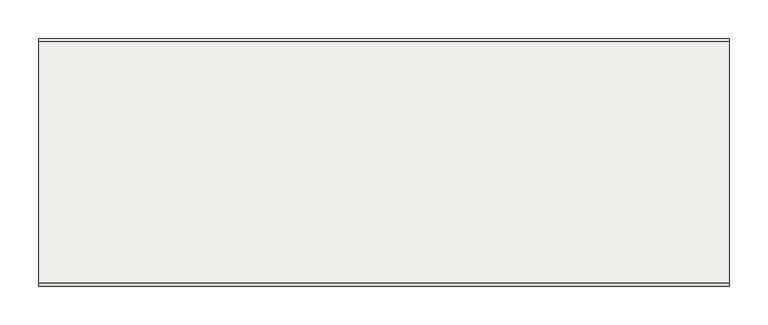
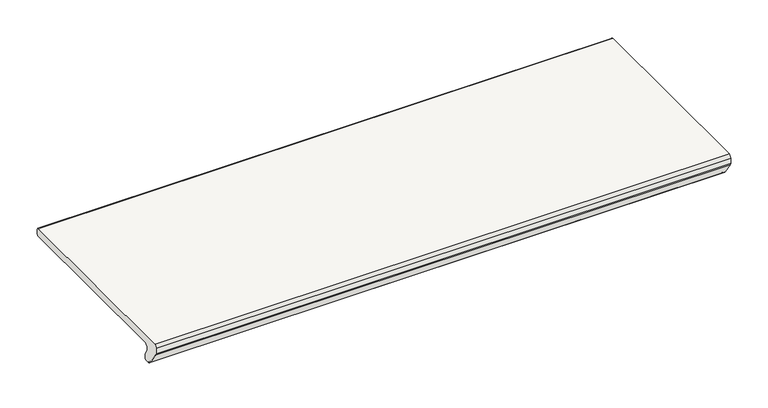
"""IFC4 building model written with IfcOpenShell, lengths in millimetres: slab geometry, ROSA GRES_J62 : Pieza J62_Tresor_Java_Anti-Slip."""

from ifc_helpers import new_model, si_unit, frame, origin, place, context, project, spatial, polyline, circle_curve, source, transform, mapped, element, save
from ifc_brep_helpers import plane_surface, cylinder_surface, revolved_surface, advanced_brep


def slab_3769058e(model_context):
    return source(origin(), model_context, "Body", "AdvancedBrep", [
        advanced_brep(
        [(885.453634, 317.0, 2.5), (885.453634, 317.0, 10.0774941), (885.453634, 314.2818333, 12.7946269), (885.453634, 3.9876034, 12.7946269), (885.453634, 0.0, 8.2984975), (885.453634, 0.0, -0.2793766), (885.453634, 0.7963935, -2.84429), (885.453634, 14.760096, -23.1626329), (885.453634, 17.666394, -25.1262743), (885.453634, 18.5721049, -25.1262743), (885.453634, 19.473321, -26.1221068), (885.453634, 20.3835268, -27.1188383), (885.453634, 26.7240304, -27.1188383), (885.453634, 29.4411632, -24.4017055), (885.453634, 29.4411632, -18.2354274), (885.453634, 24.5931401, -10.7276172), (885.453634, 29.6363327, 0.0), (885.453634, 314.5, 0.0), (0.0, 317.0, 2.5), (0.0, 314.5, 0.0), (0.0, 29.6363327, 0.0), (0.0, 24.5931401, -10.7276172), (0.0, 29.4411632, -18.2354274), (0.0, 29.4411632, -24.4017055), (0.0, 26.7240304, -27.1188383), (0.0, 20.3835268, -27.1188383), (0.0, 19.4823107, -26.1230058), (0.0, 18.5721049, -25.1262743), (0.0, 17.666394, -25.1262743), (0.0, 14.760096, -23.1626329), (0.0, 0.7963935, -2.84429), (0.0, 0.0, -0.2793766), (0.0, 0.0, 8.2984975), (0.0, 3.9876034, 12.7946269), (0.0, 314.2818333, 12.7946269), (0.0, 316.9989661, 10.0774941)],
        [
            (0, 1),
            (1, 2, circle_curve(frame((885.453634, 314.2818333, 10.0774941), z_axis=(1.0, 0.0, 0.0), x_axis=(0.0, 0.0, 1.0)), 2.7171328)),
            (2, 3),
            (3, 4, circle_curve(frame((885.453634, 4.5285547, 8.2984975), z_axis=(1.0, 0.0, 0.0), x_axis=(0.0, -0.9928398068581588, -0.11945341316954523)), 4.5285547)),
            (4, 5),
            (5, 6, circle_curve(frame((885.453634, 4.5285547, -0.2793766), z_axis=(1.0, 0.0, 0.0), x_axis=(0.0, 0.0, -1.0)), 4.5285547)),
            (6, 7),
            (7, 8, circle_curve(frame((885.453634, 18.9818017, -20.0468365), z_axis=(1.0, 0.0, 0.0), x_axis=(0.0, 0.5938246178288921, -0.804594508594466)), 5.2469978)),
            (8, 9),
            (9, 10, circle_curve(frame((885.453634, 18.5721049, -26.0319852), z_axis=(-1.0, 0.0, 0.0), x_axis=(0.0, 1.0, 0.0)), 0.9057109)),
            (10, 11, circle_curve(frame((885.453634, 20.3835268, -26.2131274), z_axis=(1.0, 0.0, 0.0), x_axis=(0.0, -0.0995037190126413, -0.9950371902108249)), 0.9057109)),
            (11, 12),
            (12, 13, circle_curve(frame((885.453634, 26.7240304, -24.4017055), z_axis=(1.0, 0.0, 0.0), x_axis=(0.0, 1.0, 0.0)), 2.7171328)),
            (13, 14),
            (14, 15),
            (15, 16, circle_curve(frame((885.453634, 30.1604402, -6.7956336), z_axis=(-1.0, 0.0, 0.0), x_axis=(0.0, -0.5768912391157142, 0.8168209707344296)), 6.8158144)),
            (16, 17),
            (17, 0, circle_curve(frame((885.453634, 314.5, 2.5), z_axis=(1.0, 0.0, 0.0), x_axis=(0.0, 1.0, 0.0)), 2.5)),
            (18, 19, circle_curve(frame((0.0, 314.5, 2.5), z_axis=(-1.0, 0.0, 0.0), x_axis=(0.0, 1.0, 0.0)), 2.5)),
            (19, 20),
            (20, 21, circle_curve(frame((0.0, 30.1604402, -6.7956336), z_axis=(1.0, 0.0, 0.0), x_axis=(0.0, -0.5768912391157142, 0.8168209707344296)), 6.8158144)),
            (21, 22),
            (22, 23),
            (23, 24, circle_curve(frame((0.0, 26.7240304, -24.4017055), z_axis=(-1.0, 0.0, 0.0), x_axis=(0.0, 1.0, 0.0)), 2.7171328)),
            (24, 25),
            (25, 26, circle_curve(frame((0.0, 20.3835268, -26.2131274), z_axis=(-1.0, 0.0, 0.0), x_axis=(0.0, -0.0995037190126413, -0.9950371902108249)), 0.9057109)),
            (26, 27, circle_curve(frame((0.0, 18.5721049, -26.0319852), z_axis=(1.0, 0.0, 0.0), x_axis=(0.0, 1.0, 0.0)), 0.9057109)),
            (27, 28),
            (28, 29, circle_curve(frame((0.0, 18.9818017, -20.0468365), z_axis=(-1.0, 0.0, 0.0), x_axis=(0.0, 0.5938246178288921, -0.804594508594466)), 5.2469978)),
            (29, 30),
            (30, 31, circle_curve(frame((0.0, 4.5285547, -0.2793766), z_axis=(-1.0, 0.0, 0.0), x_axis=(0.0, 0.0, -1.0)), 4.5285547)),
            (31, 32),
            (32, 33, circle_curve(frame((0.0, 4.5285547, 8.2984975), z_axis=(-1.0, 0.0, 0.0), x_axis=(0.0, -0.9928398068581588, -0.11945341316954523)), 4.5285547)),
            (33, 34),
            (34, 35, circle_curve(frame((0.0, 314.2818333, 10.0774941), z_axis=(-1.0, 0.0, 0.0), x_axis=(0.0, 0.0, 1.0)), 2.7171328)),
            (35, 18),
            (16, 20),
            (19, 17),
            (18, 0),
            (35, 1),
            (34, 2),
            (33, 3),
            (32, 4),
            (31, 5),
            (30, 6),
            (29, 7),
            (28, 8),
            (27, 9),
            (26, 10),
            (25, 11),
            (24, 12),
            (23, 13),
            (22, 14),
            (21, 15),
        ],
        [
            plane_surface(frame((885.453634, 317.0, 10.0774941), z_axis=(1.0, 0.0, 0.0), x_axis=(0.0, 0.0, 1.0))),
            plane_surface(frame((0.0, 317.0, 10.0774941), z_axis=(-1.0, 0.0, 0.0), x_axis=(0.0, 0.0, -1.0))),
            plane_surface(frame((885.453634, 172.0681664, 0.0), z_axis=(0.0, 0.0, -1.0), x_axis=(0.0, 1.0, 0.0))),
            cylinder_surface(frame((885.453634, 314.5, 2.5), z_axis=(-1.0, 0.0, 0.0), x_axis=(0.0, 1.0, 0.0)), 2.5),
            plane_surface(frame((885.453634, 317.0, 6.288747), z_axis=(0.0, 1.0, 0.0), x_axis=(0.0, 0.0, 1.0))),
            cylinder_surface(frame((885.453634, 314.2818333, 10.0774941), z_axis=(-1.0, 0.0, 0.0), x_axis=(0.0, 0.0, 1.0)), 2.7171328),
            plane_surface(frame((885.453634, 159.1347183, 12.7946269), z_axis=(0.0, 0.0, 1.0), x_axis=(0.0, -1.0, 0.0))),
            cylinder_surface(frame((885.453634, 4.5285547, 8.2984975), z_axis=(-1.0, 0.0, 0.0), x_axis=(0.0, -0.9928398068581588, -0.11945341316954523)), 4.5285547),
            plane_surface(frame((885.453634, 0.0, 4.0095604), z_axis=(0.0, -1.0, 0.0), x_axis=(0.0, 0.0, -1.0))),
            cylinder_surface(frame((885.453634, 4.5285547, -0.2793766), z_axis=(-1.0, 0.0, 0.0), x_axis=(0.0, 0.0, -1.0)), 4.5285547),
            plane_surface(frame((885.453634, 7.7782448, -13.0034614), z_axis=(0.0, -0.8241395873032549, -0.5663867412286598), x_axis=(0.0, 0.5663867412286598, -0.8241395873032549))),
            cylinder_surface(frame((885.453634, 18.9818017, -20.0468365), z_axis=(-1.0, 0.0, 0.0), x_axis=(0.0, 0.5938246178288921, -0.804594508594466)), 5.2469978),
            plane_surface(frame((885.453634, 18.1192494, -25.1262743), z_axis=(0.0, -1.2857360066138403e-11, -1.0), x_axis=(0.0, 1.0, -1.2857360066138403e-11))),
            revolved_surface(polyline([(0.0, 19.4778158, -26.0319852), (885.453634, 19.4778158, -26.0319852)]), (885.453634, 18.5721049, -26.0319852), (-1.0, 0.0, 0.0)),
            cylinder_surface(frame((885.453634, 20.3835268, -26.2131274), z_axis=(-1.0, 0.0, 0.0), x_axis=(0.0, -0.0995037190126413, -0.9950371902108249)), 0.9057109),
            plane_surface(frame((885.453634, 23.5537786, -27.1188383), z_axis=(0.0, -2.3443000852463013e-12, -1.0), x_axis=(0.0, 1.0, -2.3443000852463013e-12))),
            cylinder_surface(frame((885.453634, 26.7240304, -24.4017055), z_axis=(-1.0, 0.0, 0.0), x_axis=(0.0, 1.0, 0.0)), 2.7171328),
            plane_surface(frame((885.453634, 29.4411632, -21.3185665), z_axis=(0.0, 1.0, 0.0), x_axis=(0.0, 0.0, 1.0))),
            plane_surface(frame((885.453634, 27.0171517, -14.4815223), z_axis=(0.0, 0.8400786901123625, 0.5424645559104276), x_axis=(0.0, -0.5424645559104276, 0.8400786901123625))),
            revolved_surface(polyline([(0.0, 26.228456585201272, -1.2283334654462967), (885.453634, 26.228456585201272, -1.2283334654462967)]), (885.453634, 30.1604402, -6.7956336), (-1.0, 0.0, 0.0)),
        ],
        [
            (0, [[1, 2, 3, 4, 5, 6, 7, 8, 9, 10, 11, 12, 13, 14, 15, 16, 17, 18]]),
            (1, [[19, 20, 21, 22, 23, 24, 25, 26, 27, 28, 29, 30, 31, 32, 33, 34, 35, 36]]),
            (2, [[-17, 37, -20, 38]]),
            (3, [[-18, -38, -19, 39]]),
            (4, [[-1, -39, -36, 40]]),
            (5, [[-2, -40, -35, 41]]),
            (6, [[-3, -41, -34, 42]]),
            (7, [[-4, -42, -33, 43]]),
            (8, [[-5, -43, -32, 44]]),
            (9, [[-6, -44, -31, 45]]),
            (10, [[-7, -45, -30, 46]]),
            (11, [[-8, -46, -29, 47]]),
            (12, [[-9, -47, -28, 48]]),
            (13, [[-10, -48, -27, 49]]),
            (14, [[-11, -49, -26, 50]]),
            (15, [[-12, -50, -25, 51]]),
            (16, [[-13, -51, -24, 52]]),
            (17, [[-14, -52, -23, 53]]),
            (18, [[-15, -53, -22, 54]]),
            (19, [[-16, -54, -21, -37]]),
        ],
    ),
    ])


if __name__ == "__main__":
    model = new_model("IFC4")
    model_context = context("Model", 3, world=origin())
    ifc_project = project(units=[si_unit("LENGTHUNIT", "METRE", prefix="MILLI")], contexts=[model_context])
    site = spatial("IfcSite", under=ifc_project)
    building = spatial("IfcBuilding", under=site)
    placement = place(None, origin())
    slab_shape = slab_3769058e(model_context)
    element("IfcSlab", 1, ObjectType="ROSA GRES_J62 : Pieza J62_Tresor_Java_Anti-Slip", at=placement, inside=building, context=model_context, shape_type="MappedRepresentation", body=[
        mapped(slab_shape, transform((0.0, 0.0, 0.0), x_axis=(1.0, 0.0, 0.0), y_axis=(0.0, 1.0, 0.0), z_axis=(0.0, 0.0, 1.0))),
    ])
    save(model, "model.ifc")
